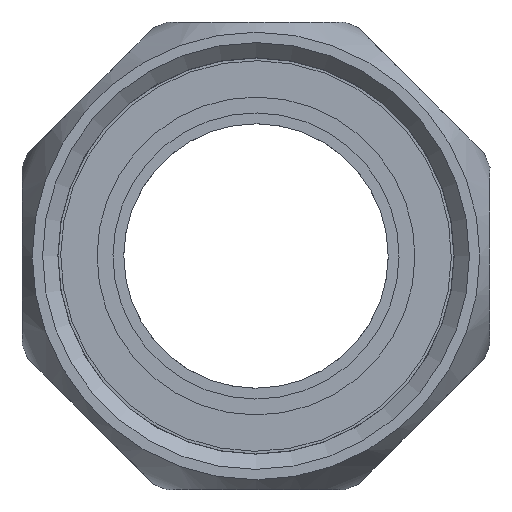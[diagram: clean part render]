
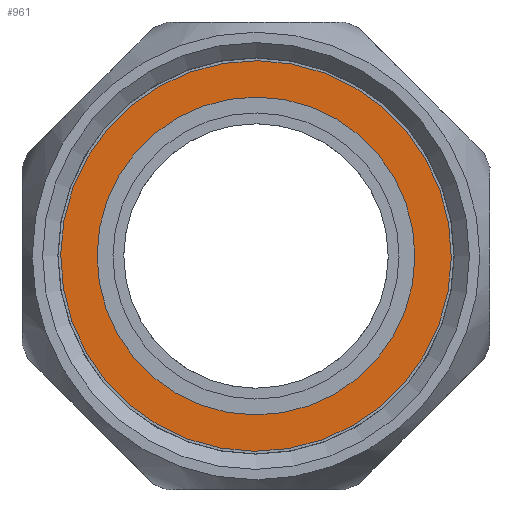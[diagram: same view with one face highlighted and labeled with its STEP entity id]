
A CAD part, left-side view. The second image highlights one B-rep face of the part: STEP entity #961.
In plain terms, the highlighted planar face has unit normal (-1, 0, 0).
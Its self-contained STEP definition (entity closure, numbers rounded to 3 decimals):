
#76=FACE_BOUND('',#220,.T.);
#108=PLANE('',#1147);
#158=FACE_OUTER_BOUND('',#219,.T.);
#219=EDGE_LOOP('',(#815,#816));
#220=EDGE_LOOP('',(#817,#818));
#378=CIRCLE('',#1143,15.625);
#379=CIRCLE('',#1144,15.625);
#382=CIRCLE('',#1148,19.2);
#383=CIRCLE('',#1149,19.2);
#464=VERTEX_POINT('',#1718);
#465=VERTEX_POINT('',#1719);
#468=VERTEX_POINT('',#1728);
#469=VERTEX_POINT('',#1729);
#590=EDGE_CURVE('',#464,#465,#378,.T.);
#591=EDGE_CURVE('',#465,#464,#379,.T.);
#595=EDGE_CURVE('',#468,#469,#382,.T.);
#596=EDGE_CURVE('',#469,#468,#383,.T.);
#815=ORIENTED_EDGE('',*,*,#595,.F.);
#816=ORIENTED_EDGE('',*,*,#596,.F.);
#817=ORIENTED_EDGE('',*,*,#590,.T.);
#818=ORIENTED_EDGE('',*,*,#591,.T.);
#961=ADVANCED_FACE('',(#158,#76),#108,.T.);
#1143=AXIS2_PLACEMENT_3D('',#1720,#1396,#1397);
#1144=AXIS2_PLACEMENT_3D('',#1721,#1398,#1399);
#1147=AXIS2_PLACEMENT_3D('',#1727,#1405,#1406);
#1148=AXIS2_PLACEMENT_3D('',#1730,#1407,#1408);
#1149=AXIS2_PLACEMENT_3D('',#1731,#1409,#1410);
#1396=DIRECTION('center_axis',(1.,0.,0.));
#1397=DIRECTION('ref_axis',(0.,1.,0.));
#1398=DIRECTION('center_axis',(1.,0.,0.));
#1399=DIRECTION('ref_axis',(0.,1.,0.));
#1405=DIRECTION('center_axis',(-1.,0.,0.));
#1406=DIRECTION('ref_axis',(0.,0.,1.));
#1407=DIRECTION('center_axis',(1.,0.,0.));
#1408=DIRECTION('ref_axis',(0.,1.,0.));
#1409=DIRECTION('center_axis',(1.,0.,0.));
#1410=DIRECTION('ref_axis',(0.,1.,0.));
#1718=CARTESIAN_POINT('',(21.5,15.625,0.));
#1719=CARTESIAN_POINT('',(21.5,-15.625,0.));
#1720=CARTESIAN_POINT('Origin',(21.5,0.,0.));
#1721=CARTESIAN_POINT('Origin',(21.5,0.,0.));
#1727=CARTESIAN_POINT('Origin',(21.5,17.413,0.));
#1728=CARTESIAN_POINT('',(21.5,19.2,0.));
#1729=CARTESIAN_POINT('',(21.5,-19.2,0.));
#1730=CARTESIAN_POINT('Origin',(21.5,0.,0.));
#1731=CARTESIAN_POINT('Origin',(21.5,0.,0.));
